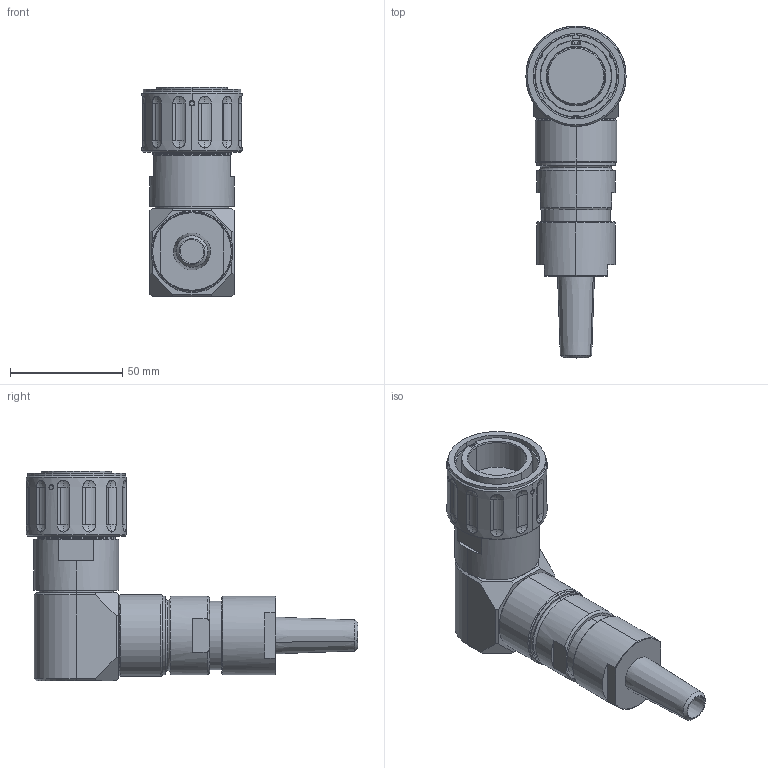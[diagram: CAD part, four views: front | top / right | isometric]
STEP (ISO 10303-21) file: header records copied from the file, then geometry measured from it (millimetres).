
FILE_DESCRIPTION (( 'STEP AP214' ), '1' );
FILE_NAME ('QLINK90-PGBX-21XX-SXXX-RA.STEP', '2025-12-09T16:15:59', ( '' ), ( '' ), 'SwSTEP 2.0', 'SolidWorks 2024', '' );
FILE_SCHEMA (( 'AUTOMOTIVE_DESIGN' ));
Length unit declared in the file: millimetre
Products named in the file (1): QLINK90-PGBX-21XX-SXXX-RA
Bounding box: 44.6 x 147.53 x 93.22 mm (x, y, z)
Volume: 175262.3 mm3; surface area: 36088.8 mm2
Topology: 5 solids, 7 shells, 335 faces, 790 edges, 504 vertices
Faces by surface type: cylinder 107, plane 93, cone 62, sphere 48, torus 13, bspline 12
Entity records: 14225 total; most frequent: CARTESIAN_POINT 6452, DIRECTION 1655, ORIENTED_EDGE 1580, EDGE_CURVE 790, AXIS2_PLACEMENT_3D 673, VERTEX_POINT 504, EDGE_LOOP 380, CIRCLE 349
